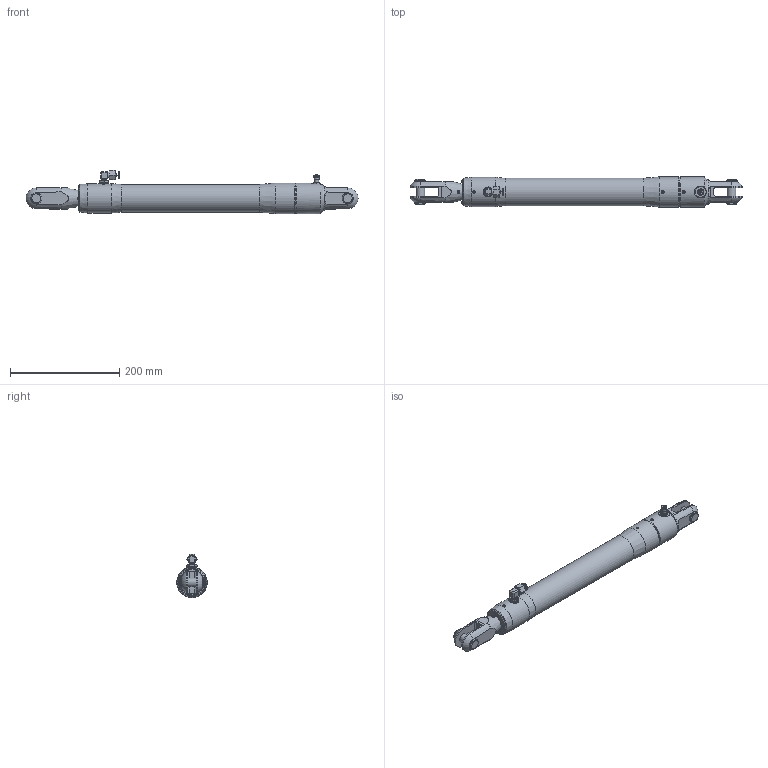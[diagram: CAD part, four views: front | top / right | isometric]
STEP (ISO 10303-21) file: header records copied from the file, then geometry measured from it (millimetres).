
FILE_DESCRIPTION(/* description */ (''),/* implementation_level */ '2;1');
FILE_NAME(/* name */ 'Q:\AA BRAND HYDRAULICS\HYDRAULICS FAMILY DIRECTORY\HYDRAULICS\CYLINDERS\RAMS\STAINLESS - STANDARD SINGLE ACTING (-0006 To -0260)\RSS-0012-S0260-NP-71\RSS-0012-S0260-NP-71 (Closed).stp',/* time_stamp */ '2018-01-15T14:00:13+00:00',/* author */ ('Lorena'),/* organization */ (''),/* preprocessor_version */ 'ST-DEVELOPER v17',/* originating_system */ 'Autodesk Inventor 2018',/* authorisation */ '');
FILE_SCHEMA (('AUTOMOTIVE_DESIGN { 1 0 10303 214 3 1 1 }'));
Length unit declared in the file: millimetre
Products named in the file (1): RSS-0012-S0260-NP-71 (Closed)
Bounding box: 608.3 x 55.8 x 79.12 mm (x, y, z)
Volume: 1115589 mm3; surface area: 109377.7 mm2
Topology: 2 solids, 6 shells, 1790 faces, 4817 edges, 3190 vertices
Faces by surface type: plane 1007, bspline 574, cone 110, cylinder 91, torus 4, sphere 4
Full cylindrical faces by diameter (mm): 3 x2, 3.5 x3, 4 x1, 4.4 x1, 5 x2, 7 x1, 7.728 x1, 8.728 x1, 8.8 x2, 9 x1, 9.728 x2, 10 x2, 11.11 x1, 11.8 x2, 12 x3, 13 x1, 15.1 x3, 15.88 x2, 18 x2, 19.85 x2, 20 x1, 49.2 x1, 50.8 x1, 53.8 x1, 54.8 x1, 55.8 x2
Entity records: 64023 total; most frequent: CARTESIAN_POINT 21397, ORIENTED_EDGE 9624, DIRECTION 6326, EDGE_CURVE 4812, VERTEX_POINT 3191, LINE 2980, VECTOR 2980, EDGE_LOOP 1959
